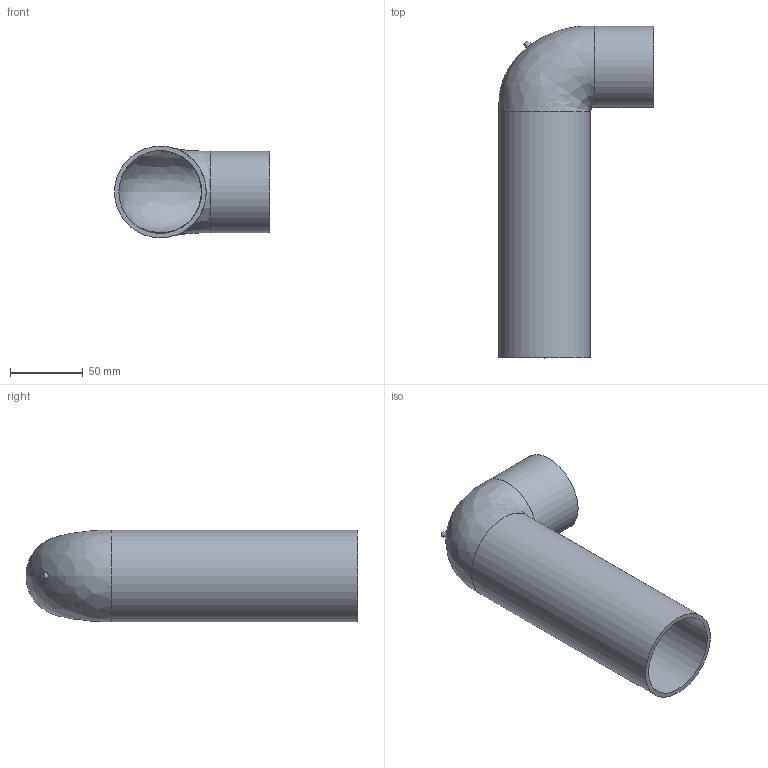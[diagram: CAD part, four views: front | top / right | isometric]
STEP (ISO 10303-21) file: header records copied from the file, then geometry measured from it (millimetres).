
FILE_DESCRIPTION(/* description */ (''),/* implementation_level */ '2;1');
FILE_NAME(/* name */ 'Z:\Geberit\Export\NewStep\364084.stp',/* time_stamp */ '2014-04-01T23:14:19+02:00',/* author */ ('nelson'),/* organization */ (''),/* preprocessor_version */ 'ST-DEVELOPER v15.2',/* originating_system */ 'Autodesk Inventor 2014',/* authorisation */ '');
FILE_SCHEMA (('AUTOMOTIVE_DESIGN { 1 0 10303 214 3 1 1 }'));
Length unit declared in the file: millimetre
Products named in the file (1): 364084
Bounding box: 106.5 x 228 x 63 mm (x, y, z)
Volume: 144126.3 mm3; surface area: 97156.1 mm2
Topology: 1 solids, 1 shells, 10 faces, 20 edges, 12 vertices
Faces by surface type: cylinder 4, plane 3, bspline 2, cone 1
Full cylindrical faces by diameter (mm): 50 x1, 56 x1, 57 x1, 63 x1
Entity records: 1023 total; most frequent: CARTESIAN_POINT 823, DIRECTION 36, ORIENTED_EDGE 28, AXIS2_PLACEMENT_3D 18, EDGE_LOOP 17, EDGE_CURVE 14, VERTEX_POINT 11, ADVANCED_FACE 10
